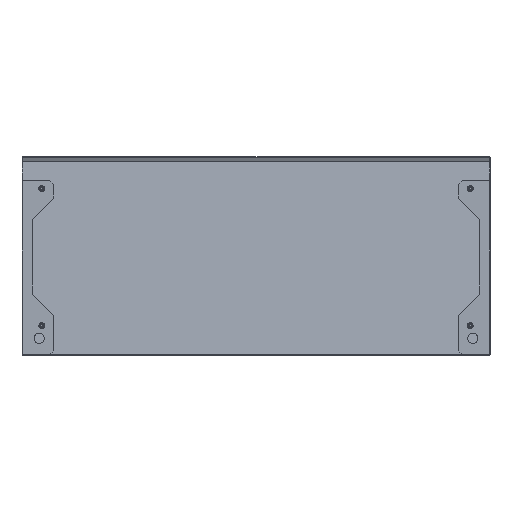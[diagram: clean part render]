
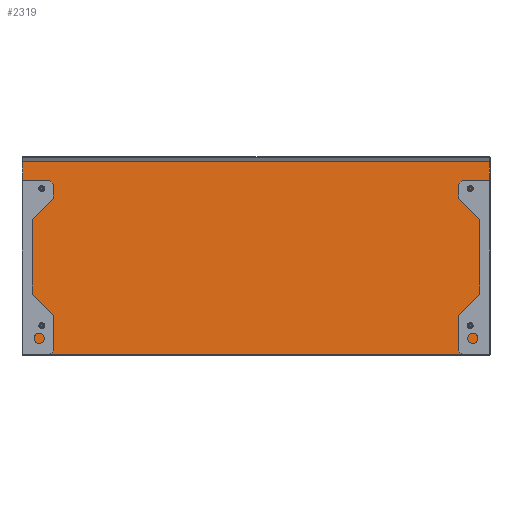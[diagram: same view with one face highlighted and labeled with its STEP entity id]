
A CAD part, front view. The second image highlights one B-rep face of the part: STEP entity #2319.
In plain terms, the highlighted planar face has unit normal (0, -0.998, 0.065).
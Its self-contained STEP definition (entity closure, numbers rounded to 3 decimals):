
#316 = EDGE_CURVE ( 'NONE', #3349, #3351, #4064, .T. ) ;
#317 = EDGE_CURVE ( 'NONE', #3351, #3350, #4067, .T. ) ;
#318 = EDGE_CURVE ( 'NONE', #3348, #3349, #4070, .T. ) ;
#319 = EDGE_CURVE ( 'NONE', #3350, #3348, #4073, .T. ) ;
#431 = AXIS2_PLACEMENT_3D ( 'NONE', #1075, #1076, #1077 ) ;
#435 = FACE_OUTER_BOUND ( 'NONE', #3587, .T. ) ;
#702 = VECTOR ( 'NONE', #4075, 1000. ) ;
#705 = VECTOR ( 'NONE', #4072, 1000. ) ;
#706 = VECTOR ( 'NONE', #4069, 1000. ) ;
#708 = VECTOR ( 'NONE', #4066, 1000. ) ;
#1074 = PLANE ( 'NONE',  #431 ) ;
#1075 = CARTESIAN_POINT ( 'NONE',  ( -1210., 57.556, 503.931 ) ) ;
#1076 = DIRECTION ( 'NONE',  ( 0., 0.998, -0.065 ) ) ;
#1077 = DIRECTION ( 'NONE',  ( 0., 0.065, 0.998 ) ) ;
#1331 = CARTESIAN_POINT ( 'NONE',  ( -2., 57.441, 502.165 ) ) ;
#1332 = CARTESIAN_POINT ( 'NONE',  ( -2., 24.925, 1.961 ) ) ;
#1333 = CARTESIAN_POINT ( 'NONE',  ( -1208., 57.441, 502.165 ) ) ;
#1334 = CARTESIAN_POINT ( 'NONE',  ( -1208., 24.925, 1.961 ) ) ;
#1797 = ORIENTED_EDGE ( 'NONE', *, *, #319, .F. ) ;
#1798 = ORIENTED_EDGE ( 'NONE', *, *, #316, .F. ) ;
#1799 = ORIENTED_EDGE ( 'NONE', *, *, #318, .F. ) ;
#1800 = ORIENTED_EDGE ( 'NONE', *, *, #317, .F. ) ;
#2319 = ADVANCED_FACE ( 'NONE', ( #435 ), #1074, .F. ) ;
#3348 = VERTEX_POINT ( 'NONE', #1331 ) ;
#3349 = VERTEX_POINT ( 'NONE', #1332 ) ;
#3350 = VERTEX_POINT ( 'NONE', #1333 ) ;
#3351 = VERTEX_POINT ( 'NONE', #1334 ) ;
#3587 = EDGE_LOOP ( 'NONE', ( #1800, #1798, #1799, #1797 ) ) ;
#4064 = LINE ( 'NONE', #4065, #708 ) ;
#4065 = CARTESIAN_POINT ( 'NONE',  ( -1210., 24.925, 1.961 ) ) ;
#4066 = DIRECTION ( 'NONE',  ( -1., 0., 0. ) ) ;
#4067 = LINE ( 'NONE', #4068, #706 ) ;
#4068 = CARTESIAN_POINT ( 'NONE',  ( -1208., 57.556, 503.931 ) ) ;
#4069 = DIRECTION ( 'NONE',  ( 0., 0.065, 0.998 ) ) ;
#4070 = LINE ( 'NONE', #4071, #705 ) ;
#4071 = CARTESIAN_POINT ( 'NONE',  ( -2., 57.556, 503.931 ) ) ;
#4072 = DIRECTION ( 'NONE',  ( 0., -0.065, -0.998 ) ) ;
#4073 = LINE ( 'NONE', #4074, #702 ) ;
#4074 = CARTESIAN_POINT ( 'NONE',  ( -1210., 57.441, 502.165 ) ) ;
#4075 = DIRECTION ( 'NONE',  ( 1., 0., 0. ) ) ;
